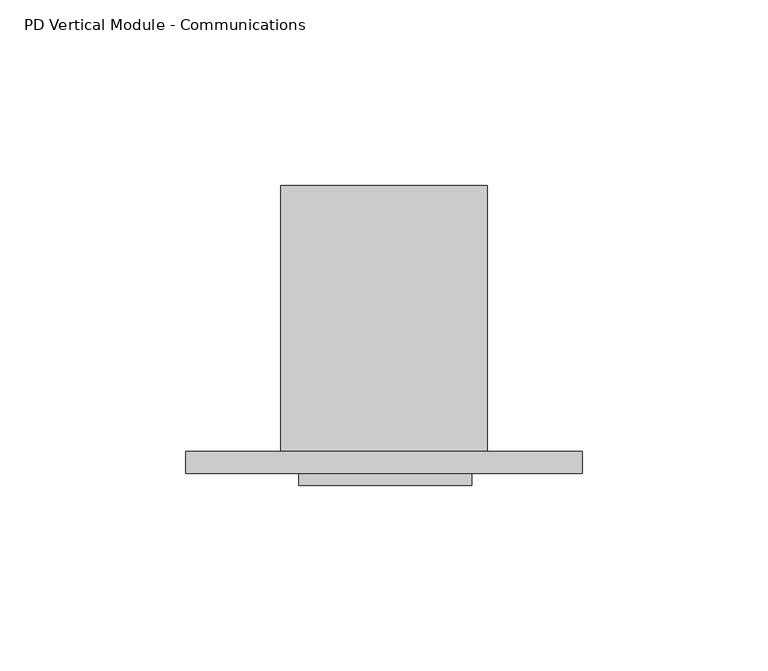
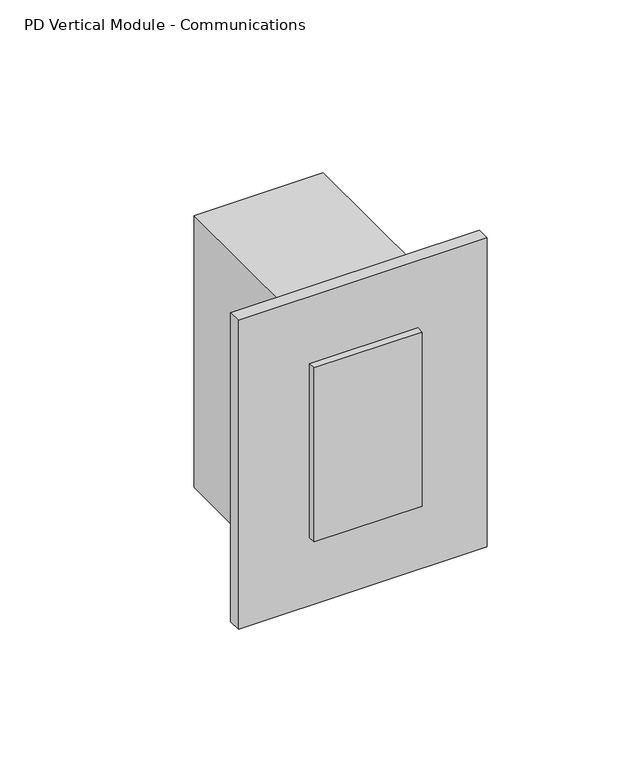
"""IFC4 building model written with IfcOpenShell, lengths in millimetres: proxy geometry, Electrical-Teknion-EPDMC_Vertical_Power_Data_Module_Communication-R2019 : PD Vertical Module - Communications."""

from ifc_helpers import new_model, si_unit, frame, origin, place, context, project, spatial, polyline, outline, extrude, source, transform, mapped, element, save


def pd_vertical_module_communications_1fad3fac(model_context):
    return source(origin(), model_context, "Body", "SweptSolid", [
        extrude(outline(polyline([(4.8514, -5.8928), (51.3842, -5.8928), (51.3842, -9.0678), (4.8514, -9.0678), (4.8514, -5.8928)])), frame((0.0, 0.0, 341.7922742), z_axis=(0.0, 0.0, 1.0), x_axis=(1.0, 0.0, 0.0)), (0.0, 0.0, 1.0), 79.0448),
        extrude(outline(polyline([(-25.6794, 0.0), (81.2292, 0.0), (81.2292, -5.8928), (-25.6794, -5.8928), (-25.6794, 0.0)])), frame((0.0, 0.0, 310.8198), z_axis=(0.0, 0.0, 1.0), x_axis=(1.0, 0.0, 0.0)), (0.0, 0.0, 1.0), 140.3604),
        extrude(outline(polyline([(55.5498, 0.0), (0.0, 0.0), (0.0, 71.7296), (55.5498, 71.7296), (55.5498, 0.0)])), frame((0.0, 0.0, 319.2526), z_axis=(0.0, 0.0, 1.0), x_axis=(1.0, 0.0, 0.0)), (0.0, 0.0, 1.0), 123.4948),
    ])


if __name__ == "__main__":
    model = new_model("IFC4")
    model_context = context("Model", 3, world=origin())
    ifc_project = project(units=[si_unit("LENGTHUNIT", "METRE", prefix="MILLI")], contexts=[model_context])
    site = spatial("IfcSite", under=ifc_project)
    building = spatial("IfcBuilding", under=site)
    placement = place(None, origin())
    pd_vertical_module_communications_shape = pd_vertical_module_communications_1fad3fac(model_context)
    element("IfcBuildingElementProxy", 1, Name="Electrical-Teknion-EPDMC_Vertical_Power_Data_Module_Communication-R2019 : PD Vertical Module - Communications", ObjectType="Electrical-Teknion-EPDMC_Vertical_Power_Data_Module_Communication-R2019 : PD Vertical Module - Communications", at=placement, inside=building, context=model_context, shape_type="MappedRepresentation", body=[
        mapped(pd_vertical_module_communications_shape, transform((0.0, 0.0, 0.0), x_axis=(1.0, 0.0, 0.0), y_axis=(0.0, 1.0, 0.0), z_axis=(0.0, 0.0, 1.0))),
    ])
    save(model, "model.ifc")
